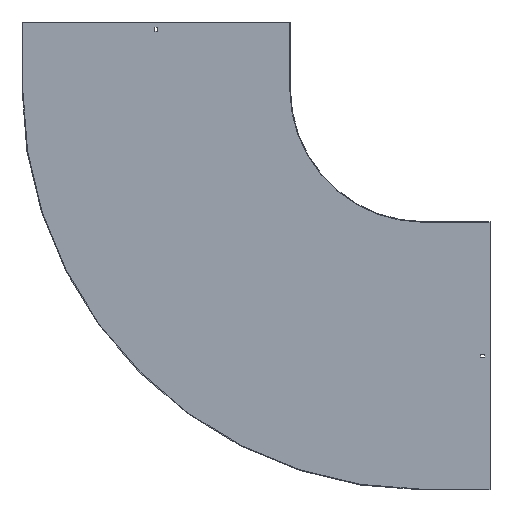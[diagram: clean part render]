
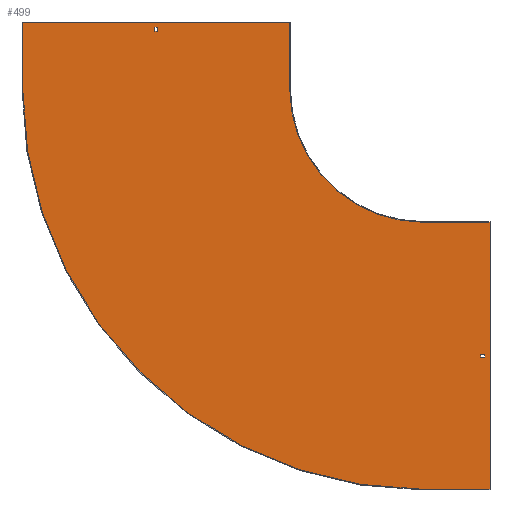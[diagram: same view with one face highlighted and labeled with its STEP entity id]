
A CAD part, front view. The second image highlights one B-rep face of the part: STEP entity #499.
In plain terms, the highlighted planar face has unit normal (0, -1, 0).
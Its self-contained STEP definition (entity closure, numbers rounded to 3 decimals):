
#2 = LINE ( 'NONE', #131, #554 ) ;
#3 = ORIENTED_EDGE ( 'NONE', *, *, #478, .F. ) ;
#5 = CARTESIAN_POINT ( 'NONE',  ( 0., -1.5, 0. ) ) ;
#15 = EDGE_LOOP ( 'NONE', ( #736, #514, #132, #488, #655, #67, #518, #793 ) ) ;
#17 = VECTOR ( 'NONE', #419, 1000. ) ;
#18 = CARTESIAN_POINT ( 'NONE',  ( 129., -1.5, -596.75 ) ) ;
#29 = DIRECTION ( 'NONE',  ( 0., 0., 1. ) ) ;
#36 = VERTEX_POINT ( 'NONE', #595 ) ;
#47 = VERTEX_POINT ( 'NONE', #394 ) ;
#48 = CARTESIAN_POINT ( 'NONE',  ( 129., -1.5, 0. ) ) ;
#54 = VERTEX_POINT ( 'NONE', #704 ) ;
#59 = EDGE_CURVE ( 'NONE', #366, #433, #355, .T. ) ;
#62 = LINE ( 'NONE', #243, #661 ) ;
#67 = ORIENTED_EDGE ( 'NONE', *, *, #744, .F. ) ;
#73 = CARTESIAN_POINT ( 'NONE',  ( 0., -1.5, 0. ) ) ;
#74 = ORIENTED_EDGE ( 'NONE', *, *, #529, .F. ) ;
#79 = ORIENTED_EDGE ( 'NONE', *, *, #267, .T. ) ;
#105 = VECTOR ( 'NONE', #773, 1000. ) ;
#109 = LINE ( 'NONE', #174, #316 ) ;
#112 = DIRECTION ( 'NONE',  ( 0., 0., -1. ) ) ;
#117 = AXIS2_PLACEMENT_3D ( 'NONE', #73, #725, #596 ) ;
#123 = CARTESIAN_POINT ( 'NONE',  ( 150., -1.5, -900. ) ) ;
#126 = LINE ( 'NONE', #48, #799 ) ;
#131 = CARTESIAN_POINT ( 'NONE',  ( 0., -1.5, -603.25 ) ) ;
#132 = ORIENTED_EDGE ( 'NONE', *, *, #486, .F. ) ;
#157 = CARTESIAN_POINT ( 'NONE',  ( -603.25, -1.5, 0. ) ) ;
#167 = EDGE_CURVE ( 'NONE', #617, #402, #109, .T. ) ;
#169 = EDGE_CURVE ( 'NONE', #402, #326, #632, .T. ) ;
#170 = EDGE_CURVE ( 'NONE', #658, #597, #626, .T. ) ;
#174 = CARTESIAN_POINT ( 'NONE',  ( -596.75, -1.5, 0. ) ) ;
#186 = VERTEX_POINT ( 'NONE', #775 ) ;
#190 = VECTOR ( 'NONE', #112, 1000. ) ;
#232 = DIRECTION ( 'NONE',  ( -1., 0., 0. ) ) ;
#235 = DIRECTION ( 'NONE',  ( 0., -1., 0. ) ) ;
#243 = CARTESIAN_POINT ( 'NONE',  ( 150., -1.5, -900. ) ) ;
#247 = CARTESIAN_POINT ( 'NONE',  ( -901.5, -1.5, 150. ) ) ;
#259 = CARTESIAN_POINT ( 'NONE',  ( -300., -1.5, 150. ) ) ;
#267 = EDGE_CURVE ( 'NONE', #326, #540, #762, .T. ) ;
#271 = PLANE ( 'NONE',  #717 ) ;
#283 = LINE ( 'NONE', #572, #800 ) ;
#288 = CARTESIAN_POINT ( 'NONE',  ( 0., -1.5, -596.75 ) ) ;
#289 = VECTOR ( 'NONE', #588, 1000. ) ;
#298 = ORIENTED_EDGE ( 'NONE', *, *, #169, .T. ) ;
#312 = DIRECTION ( 'NONE',  ( 0., 0., -1. ) ) ;
#316 = VECTOR ( 'NONE', #367, 1000. ) ;
#319 = DIRECTION ( 'NONE',  ( 1., 0., 0. ) ) ;
#321 = CARTESIAN_POINT ( 'NONE',  ( 0., -1.5, -900. ) ) ;
#325 = LINE ( 'NONE', #438, #289 ) ;
#326 = VERTEX_POINT ( 'NONE', #711 ) ;
#338 = LINE ( 'NONE', #604, #498 ) ;
#340 = VERTEX_POINT ( 'NONE', #321 ) ;
#341 = EDGE_CURVE ( 'NONE', #796, #186, #440, .T. ) ;
#342 = CARTESIAN_POINT ( 'NONE',  ( -603.25, -1.5, 138. ) ) ;
#344 = ORIENTED_EDGE ( 'NONE', *, *, #167, .T. ) ;
#355 = LINE ( 'NONE', #560, #190 ) ;
#356 = LINE ( 'NONE', #830, #105 ) ;
#366 = VERTEX_POINT ( 'NONE', #853 ) ;
#367 = DIRECTION ( 'NONE',  ( 0., 0., -1. ) ) ;
#370 = CARTESIAN_POINT ( 'NONE',  ( 138., -1.5, -596.75 ) ) ;
#375 = CARTESIAN_POINT ( 'NONE',  ( -300., -1.5, 150. ) ) ;
#382 = EDGE_CURVE ( 'NONE', #433, #340, #62, .T. ) ;
#384 = CARTESIAN_POINT ( 'NONE',  ( 0., -1.5, 0. ) ) ;
#386 = DIRECTION ( 'NONE',  ( 1., 0., 0. ) ) ;
#394 = CARTESIAN_POINT ( 'NONE',  ( -900., -1.5, 0. ) ) ;
#395 = DIRECTION ( 'NONE',  ( 0., 0., -1. ) ) ;
#401 = FACE_BOUND ( 'NONE', #561, .T. ) ;
#402 = VERTEX_POINT ( 'NONE', #843 ) ;
#417 = EDGE_CURVE ( 'NONE', #540, #617, #325, .T. ) ;
#419 = DIRECTION ( 'NONE',  ( 0., 0., 1. ) ) ;
#433 = VERTEX_POINT ( 'NONE', #123 ) ;
#438 = CARTESIAN_POINT ( 'NONE',  ( 0., -1.5, 138. ) ) ;
#440 = CIRCLE ( 'NONE', #649, 300. ) ;
#478 = EDGE_CURVE ( 'NONE', #597, #36, #126, .T. ) ;
#482 = EDGE_LOOP ( 'NONE', ( #594, #699, #74, #3 ) ) ;
#486 = EDGE_CURVE ( 'NONE', #340, #47, #612, .T. ) ;
#488 = ORIENTED_EDGE ( 'NONE', *, *, #382, .F. ) ;
#490 = DIRECTION ( 'NONE',  ( -1., 0., 0. ) ) ;
#498 = VECTOR ( 'NONE', #29, 1000. ) ;
#499 = ADVANCED_FACE ( 'NONE', ( #740, #662, #401 ), #271, .T. ) ;
#500 = CARTESIAN_POINT ( 'NONE',  ( -596.75, -1.5, 138. ) ) ;
#507 = DIRECTION ( 'NONE',  ( 0., 0., -1. ) ) ;
#514 = ORIENTED_EDGE ( 'NONE', *, *, #621, .F. ) ;
#518 = ORIENTED_EDGE ( 'NONE', *, *, #341, .F. ) ;
#521 = VECTOR ( 'NONE', #548, 1000. ) ;
#524 = LINE ( 'NONE', #247, #557 ) ;
#529 = EDGE_CURVE ( 'NONE', #36, #615, #2, .T. ) ;
#532 = EDGE_CURVE ( 'NONE', #788, #796, #671, .T. ) ;
#540 = VERTEX_POINT ( 'NONE', #342 ) ;
#548 = DIRECTION ( 'NONE',  ( 0., 0., -1. ) ) ;
#554 = VECTOR ( 'NONE', #386, 1000. ) ;
#557 = VECTOR ( 'NONE', #319, 1000. ) ;
#558 = CARTESIAN_POINT ( 'NONE',  ( 138., -1.5, -603.25 ) ) ;
#560 = CARTESIAN_POINT ( 'NONE',  ( 150., -1.5, -298.5 ) ) ;
#561 = EDGE_LOOP ( 'NONE', ( #809, #344, #298, #79 ) ) ;
#572 = CARTESIAN_POINT ( 'NONE',  ( 0., -1.5, -300. ) ) ;
#586 = DIRECTION ( 'NONE',  ( -1., 0., 0. ) ) ;
#588 = DIRECTION ( 'NONE',  ( 1., 0., 0. ) ) ;
#594 = ORIENTED_EDGE ( 'NONE', *, *, #170, .F. ) ;
#595 = CARTESIAN_POINT ( 'NONE',  ( 129., -1.5, -603.25 ) ) ;
#596 = DIRECTION ( 'NONE',  ( 0., 0., -1. ) ) ;
#597 = VERTEX_POINT ( 'NONE', #18 ) ;
#604 = CARTESIAN_POINT ( 'NONE',  ( 138., -1.5, 0. ) ) ;
#612 = CIRCLE ( 'NONE', #117, 900. ) ;
#615 = VERTEX_POINT ( 'NONE', #558 ) ;
#617 = VERTEX_POINT ( 'NONE', #500 ) ;
#620 = CARTESIAN_POINT ( 'NONE',  ( 0., -1.5, 129. ) ) ;
#621 = EDGE_CURVE ( 'NONE', #47, #54, #356, .T. ) ;
#626 = LINE ( 'NONE', #288, #678 ) ;
#632 = LINE ( 'NONE', #620, #709 ) ;
#649 = AXIS2_PLACEMENT_3D ( 'NONE', #384, #235, #507 ) ;
#655 = ORIENTED_EDGE ( 'NONE', *, *, #59, .F. ) ;
#658 = VERTEX_POINT ( 'NONE', #370 ) ;
#661 = VECTOR ( 'NONE', #586, 1000. ) ;
#662 = FACE_OUTER_BOUND ( 'NONE', #15, .T. ) ;
#671 = LINE ( 'NONE', #259, #521 ) ;
#678 = VECTOR ( 'NONE', #232, 1000. ) ;
#699 = ORIENTED_EDGE ( 'NONE', *, *, #723, .F. ) ;
#704 = CARTESIAN_POINT ( 'NONE',  ( -900., -1.5, 150. ) ) ;
#708 = EDGE_CURVE ( 'NONE', #54, #788, #524, .T. ) ;
#709 = VECTOR ( 'NONE', #490, 1000. ) ;
#711 = CARTESIAN_POINT ( 'NONE',  ( -603.25, -1.5, 129. ) ) ;
#717 = AXIS2_PLACEMENT_3D ( 'NONE', #5, #808, #395 ) ;
#723 = EDGE_CURVE ( 'NONE', #615, #658, #338, .T. ) ;
#725 = DIRECTION ( 'NONE',  ( 0., 1., 0. ) ) ;
#736 = ORIENTED_EDGE ( 'NONE', *, *, #708, .F. ) ;
#739 = CARTESIAN_POINT ( 'NONE',  ( -300., -1.5, 0. ) ) ;
#740 = FACE_BOUND ( 'NONE', #482, .T. ) ;
#744 = EDGE_CURVE ( 'NONE', #186, #366, #283, .T. ) ;
#762 = LINE ( 'NONE', #157, #17 ) ;
#773 = DIRECTION ( 'NONE',  ( 0., 0., 1. ) ) ;
#775 = CARTESIAN_POINT ( 'NONE',  ( 0., -1.5, -300. ) ) ;
#788 = VERTEX_POINT ( 'NONE', #375 ) ;
#790 = DIRECTION ( 'NONE',  ( 1., 0., 0. ) ) ;
#793 = ORIENTED_EDGE ( 'NONE', *, *, #532, .F. ) ;
#796 = VERTEX_POINT ( 'NONE', #739 ) ;
#799 = VECTOR ( 'NONE', #312, 1000. ) ;
#800 = VECTOR ( 'NONE', #790, 1000. ) ;
#808 = DIRECTION ( 'NONE',  ( 0., -1., 0. ) ) ;
#809 = ORIENTED_EDGE ( 'NONE', *, *, #417, .T. ) ;
#830 = CARTESIAN_POINT ( 'NONE',  ( -900., -1.5, 0. ) ) ;
#843 = CARTESIAN_POINT ( 'NONE',  ( -596.75, -1.5, 129. ) ) ;
#853 = CARTESIAN_POINT ( 'NONE',  ( 150., -1.5, -300. ) ) ;
